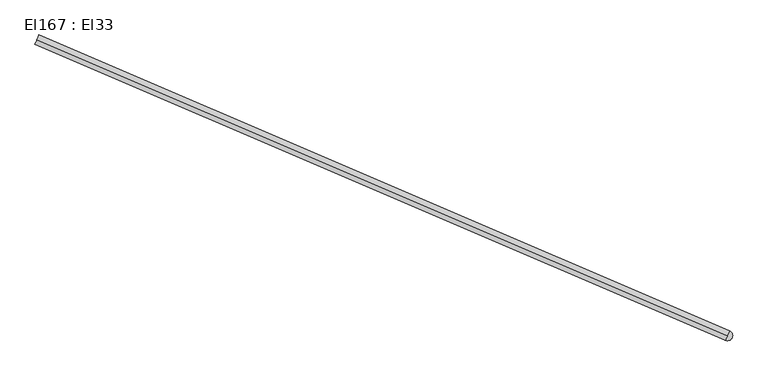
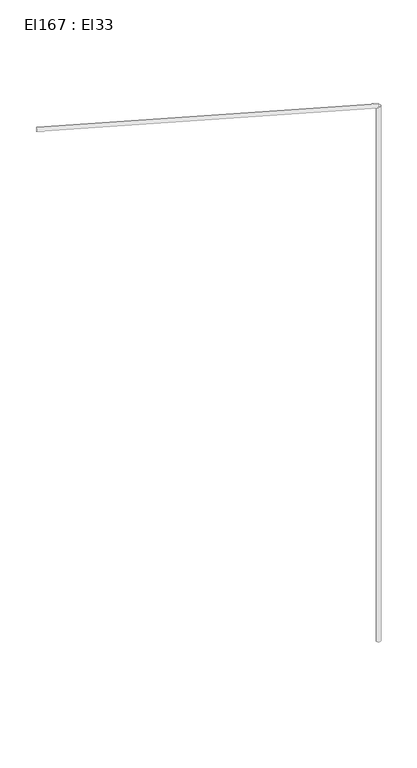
"""IFC4 building model written with IfcOpenShell, lengths in millimetres: cable carrier segment geometry, El167 : El33."""

from ifc_helpers import new_model, si_unit, point, frame, frame_2d, origin, place, context, project, spatial, circle_curve, trimmed, segment, composite_curve, outline, extrude, source, transform, mapped, element, save


def el167_el33_bbc9469f(model_context):
    return source(origin(), model_context, "Body", "SweptSolid", [
        extrude(outline(composite_curve([segment(trimmed(circle_curve(frame_2d((5364.4776511, 8464.3961745)), 9.5), [point((5354.9776511, 8464.3961745))], [point((5373.9776511, 8464.3961745))], False, "CARTESIAN"), True, "CONTINUOUS"), segment(trimmed(circle_curve(frame_2d((5364.4776511, 8464.3961745)), 9.5), [point((5373.9776511, 8464.3961745))], [point((5354.9776511, 8464.3961745))], False, "CARTESIAN"), True, "CONTINUOUS")], self_intersect=False)), frame((0.0, 0.0, 1830.0), z_axis=(0.0, 0.0, 1.0), x_axis=(1.0, 0.0, 0.0)), (0.0, 0.0, 1.0), 2620.0),
        extrude(outline(composite_curve([segment(trimmed(circle_curve(frame_2d((0.0, -9.5)), 9.5), [point((0.0, -19.0))], [point((0.0, 0.0))], False, "CARTESIAN"), True, "CONTINUOUS"), segment(trimmed(circle_curve(frame_2d((0.0, -9.5)), 9.5), [point((0.0, 0.0))], [point((0.0, -19.0))], False, "CARTESIAN"), True, "CONTINUOUS")], self_intersect=False)), frame((5364.475855, 8464.3977214, 4459.5), z_axis=(-0.9192672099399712, 0.3936340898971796, 0.0), x_axis=(-0.3936340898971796, -0.9192672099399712, 0.0)), (0.0, 0.0, 1.0), 1384.02),
    ])


if __name__ == "__main__":
    model = new_model("IFC4")
    model_context = context("Model", 3, world=origin())
    ifc_project = project(units=[si_unit("LENGTHUNIT", "METRE", prefix="MILLI")], contexts=[model_context])
    site = spatial("IfcSite", under=ifc_project)
    building = spatial("IfcBuilding", under=site)
    placement = place(None, origin())
    el167_el33_shape = el167_el33_bbc9469f(model_context)
    element("IfcCableCarrierSegment", 1, ObjectType="El167 : El33", at=placement, inside=building, context=model_context, shape_type="MappedRepresentation", body=[
        mapped(el167_el33_shape, transform((0.0, 0.0, 0.0), x_axis=(1.0, 0.0, 0.0), y_axis=(0.0, 1.0, 0.0), z_axis=(0.0, 0.0, 1.0))),
    ])
    save(model, "model.ifc")
